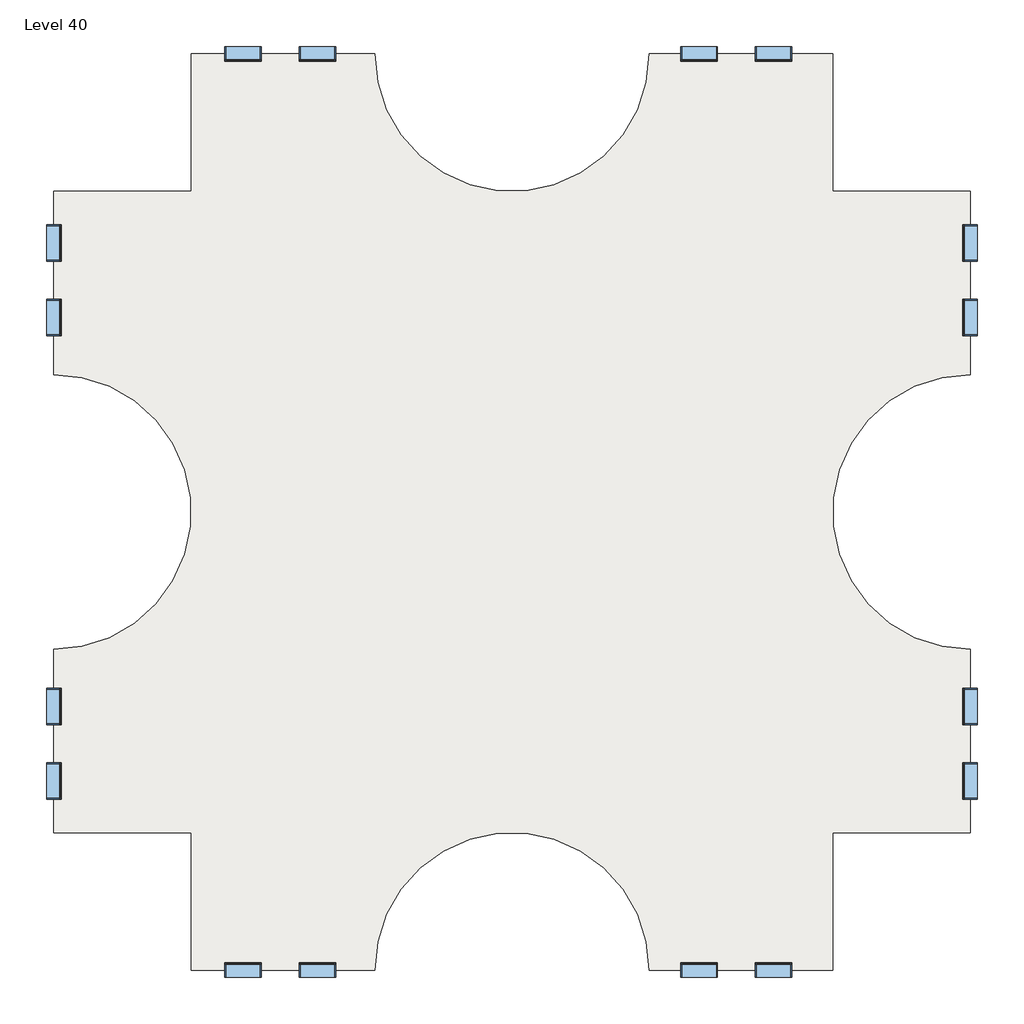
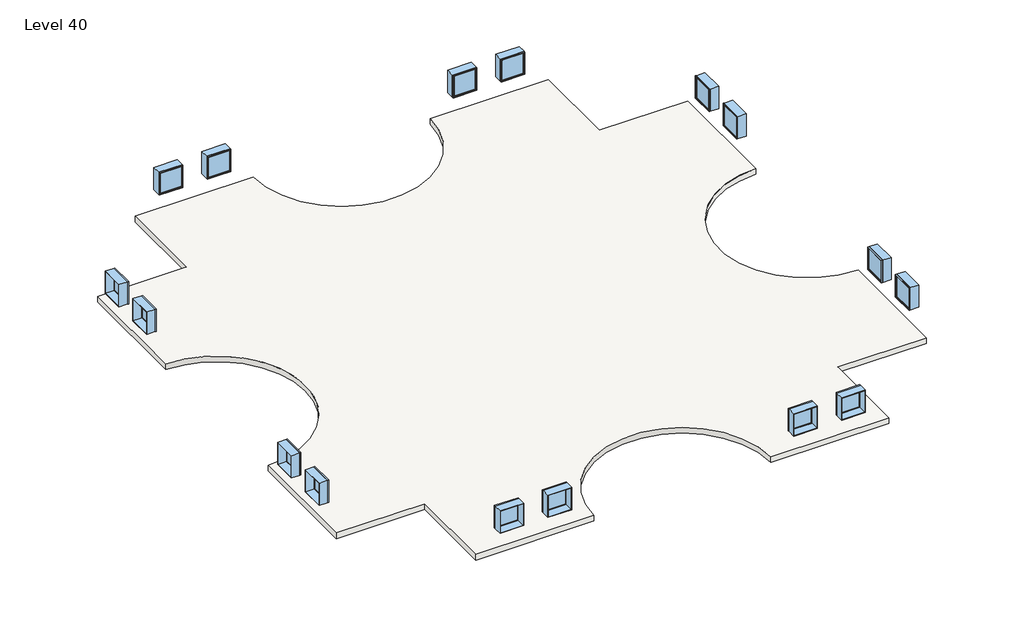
# One storey: 16 windows, 3 slabs.
"""IFC4 building model written with IfcOpenShell, lengths in millimetres."""

from ifc_helpers import new_model, si_unit, point, frame, frame_2d, origin, place, context, project, spatial, polyline, circle_curve, trimmed, segment, composite_curve, outline, extrude, transform, mapped, element, save
from components import window_d0035ecf, window_d434eb62

model = new_model("IFC4")

# Units and contexts
model_context = context("Model", 3, world=origin())
ifc_project = project(units=[si_unit("LENGTHUNIT", "METRE", prefix="MILLI")], contexts=[model_context])

# Site, building, storey
site = spatial("IfcSite", under=ifc_project)
building = spatial("IfcBuilding", under=site)
storey = spatial("IfcBuildingStorey", under=building, Name="Level 40", Elevation=118872.0)

# Slabs
placement = place(None, origin())
element("IfcSlab", 1, ObjectType="Generic - 12\"", at=placement, inside=storey, context=model_context, shape_type="SweptSolid", body=[
    extrude(outline(composite_curve([segment(polyline([(-7150.3629456, 4479.6634547), (-7150.3629456, 9051.6634547), (-1054.3629456, 9051.6634547)]), True, "CONTINUOUS"), segment(trimmed(circle_curve(frame_2d((3517.6370544, 9051.6634547)), 4572.0), [point((-1054.3629456, 9051.6634547))], [point((8089.6370544, 9051.6634547))], True, "CARTESIAN"), True, "CONTINUOUS"), segment(polyline([(8089.6370544, 9051.6634547), (14185.6370544, 9051.6634547), (14185.6370544, 4479.6634547), (18757.6370544, 4479.6634547), (18757.6370544, -1616.3365453)]), True, "CONTINUOUS"), segment(trimmed(circle_curve(frame_2d((18757.6370544, -6188.3365453)), 4572.0), [point((18757.6370544, -1616.3365453))], [point((18757.6370544, -10760.3365453))], True, "CARTESIAN"), True, "CONTINUOUS"), segment(polyline([(18757.6370544, -10760.3365453), (18757.6370544, -16856.3365453), (14185.6370544, -16856.3365453), (14185.6370544, -21428.3365453), (8089.6370544, -21428.3365453)]), True, "CONTINUOUS"), segment(trimmed(circle_curve(frame_2d((3517.6370544, -21428.3365453)), 4572.0), [point((8089.6370544, -21428.3365453))], [point((-1054.3629456, -21428.3365453))], True, "CARTESIAN"), True, "CONTINUOUS"), segment(polyline([(-1054.3629456, -21428.3365453), (-7150.3629456, -21428.3365453), (-7150.3629456, -16856.3365453), (-11722.3629456, -16856.3365453), (-11722.3629456, -10760.3365453)]), True, "CONTINUOUS"), segment(trimmed(circle_curve(frame_2d((-11722.3629456, -6188.3365453)), 4572.0), [point((-11722.3629456, -10760.3365453))], [point((-11722.3629456, -1616.3365453))], True, "CARTESIAN"), True, "CONTINUOUS"), segment(polyline([(-11722.3629456, -1616.3365453), (-11722.3629456, 4479.6634547), (-7150.3629456, 4479.6634547)]), True, "CONTINUOUS")], self_intersect=False)), frame((0.0, 0.0, 118567.2), z_axis=(0.0, 0.0, 1.0), x_axis=(1.0, 0.0, 0.0)), (0.0, 0.0, 1.0), 304.8),
])
element("IfcSlab", 2, ObjectType="Generic - 12\"", at=placement, inside=storey, context=model_context, shape_type="SweptSolid", body=[
    extrude(outline(composite_curve([segment(polyline([(-7150.3629456, 4479.6634547), (-7150.3629456, 9051.6634547), (-1054.3629456, 9051.6634547)]), True, "CONTINUOUS"), segment(trimmed(circle_curve(frame_2d((3517.6370544, 9051.6634547)), 4572.0), [point((-1054.3629456, 9051.6634547))], [point((8089.6370544, 9051.6634547))], True, "CARTESIAN"), True, "CONTINUOUS"), segment(polyline([(8089.6370544, 9051.6634547), (14185.6370544, 9051.6634547), (14185.6370544, 4479.6634547), (18757.6370544, 4479.6634547), (18757.6370544, -1616.3365453)]), True, "CONTINUOUS"), segment(trimmed(circle_curve(frame_2d((18757.6370544, -6188.3365453)), 4572.0), [point((18757.6370544, -1616.3365453))], [point((18757.6370544, -10760.3365453))], True, "CARTESIAN"), True, "CONTINUOUS"), segment(polyline([(18757.6370544, -10760.3365453), (18757.6370544, -16856.3365453), (14185.6370544, -16856.3365453), (14185.6370544, -21428.3365453), (8089.6370544, -21428.3365453)]), True, "CONTINUOUS"), segment(trimmed(circle_curve(frame_2d((3517.6370544, -21428.3365453)), 4572.0), [point((8089.6370544, -21428.3365453))], [point((-1054.3629456, -21428.3365453))], True, "CARTESIAN"), True, "CONTINUOUS"), segment(polyline([(-1054.3629456, -21428.3365453), (-7150.3629456, -21428.3365453), (-7150.3629456, -16856.3365453), (-11722.3629456, -16856.3365453), (-11722.3629456, -10760.3365453)]), True, "CONTINUOUS"), segment(trimmed(circle_curve(frame_2d((-11722.3629456, -6188.3365453)), 4572.0), [point((-11722.3629456, -10760.3365453))], [point((-11722.3629456, -1616.3365453))], True, "CARTESIAN"), True, "CONTINUOUS"), segment(polyline([(-11722.3629456, -1616.3365453), (-11722.3629456, 4479.6634547), (-7150.3629456, 4479.6634547)]), True, "CONTINUOUS")], self_intersect=False)), frame((0.0, 0.0, 118567.2), z_axis=(0.0, 0.0, 1.0), x_axis=(1.0, 0.0, 0.0)), (0.0, 0.0, 1.0), 304.8),
])
element("IfcSlab", 3, ObjectType="Generic - 12\"", at=placement, inside=storey, context=model_context, shape_type="SweptSolid", body=[
    extrude(outline(composite_curve([segment(polyline([(-7150.3629456, 4479.6634547), (-7150.3629456, 9051.6634547), (-1054.3629456, 9051.6634547)]), True, "CONTINUOUS"), segment(trimmed(circle_curve(frame_2d((3517.6370544, 9051.6634547)), 4572.0), [point((-1054.3629456, 9051.6634547))], [point((8089.6370544, 9051.6634547))], True, "CARTESIAN"), True, "CONTINUOUS"), segment(polyline([(8089.6370544, 9051.6634547), (14185.6370544, 9051.6634547), (14185.6370544, 4479.6634547), (18757.6370544, 4479.6634547), (18757.6370544, -1616.3365453)]), True, "CONTINUOUS"), segment(trimmed(circle_curve(frame_2d((18757.6370544, -6188.3365453)), 4572.0), [point((18757.6370544, -1616.3365453))], [point((18757.6370544, -10760.3365453))], True, "CARTESIAN"), True, "CONTINUOUS"), segment(polyline([(18757.6370544, -10760.3365453), (18757.6370544, -16856.3365453), (14185.6370544, -16856.3365453), (14185.6370544, -21428.3365453), (8089.6370544, -21428.3365453)]), True, "CONTINUOUS"), segment(trimmed(circle_curve(frame_2d((3517.6370544, -21428.3365453)), 4572.0), [point((8089.6370544, -21428.3365453))], [point((-1054.3629456, -21428.3365453))], True, "CARTESIAN"), True, "CONTINUOUS"), segment(polyline([(-1054.3629456, -21428.3365453), (-7150.3629456, -21428.3365453), (-7150.3629456, -16856.3365453), (-11722.3629456, -16856.3365453), (-11722.3629456, -10760.3365453)]), True, "CONTINUOUS"), segment(trimmed(circle_curve(frame_2d((-11722.3629456, -6188.3365453)), 4572.0), [point((-11722.3629456, -10760.3365453))], [point((-11722.3629456, -1616.3365453))], True, "CARTESIAN"), True, "CONTINUOUS"), segment(polyline([(-11722.3629456, -1616.3365453), (-11722.3629456, 4479.6634547), (-7150.3629456, 4479.6634547)]), True, "CONTINUOUS")], self_intersect=False)), frame((0.0, 0.0, 118567.2), z_axis=(0.0, 0.0, 1.0), x_axis=(1.0, 0.0, 0.0)), (0.0, 0.0, 1.0), 304.8),
])

# Windows
window_shape = window_d0035ecf(model_context)
element("IfcWindow", 4, ObjectType="Fixed : 48\" x 48\"", at=placement, inside=storey, context=model_context, shape_type="MappedRepresentation", body=[
    mapped(window_shape, transform((-11719.1879456, 247.3884547, 118872.0), x_axis=(0.0, -1.0, 0.0), y_axis=(1.0, 0.0, 0.0), z_axis=(0.0, 0.0, 1.0))),
])
element("IfcWindow", 5, ObjectType="Fixed : 48\" x 48\"", at=placement, inside=storey, context=model_context, shape_type="MappedRepresentation", body=[
    mapped(window_shape, transform((-5469.1993281, 9048.4884547, 118872.0), x_axis=(-1.0, 0.0, 0.0), y_axis=(0.0, -1.0, 0.0), z_axis=(0.0, 0.0, 1.0))),
])
element("IfcWindow", 6, ObjectType="Fixed : 48\" x 48\"", at=placement, inside=storey, context=model_context, shape_type="MappedRepresentation", body=[
    mapped(window_shape, transform((-11719.1879456, -15175.1729277, 118872.0), x_axis=(0.0, -1.0, 0.0), y_axis=(1.0, 0.0, 0.0), z_axis=(0.0, 0.0, 1.0))),
])
element("IfcWindow", 7, ObjectType="Fixed : 48\" x 48\"", at=placement, inside=storey, context=model_context, shape_type="MappedRepresentation", body=[
    mapped(window_shape, transform((-2918.0879456, -21425.1615453, 118872.0), x_axis=(1.0, 0.0, 0.0), y_axis=(0.0, 1.0, 0.0), z_axis=(0.0, 0.0, 1.0))),
])
element("IfcWindow", 8, ObjectType="Fixed : 48\" x 48\"", at=placement, inside=storey, context=model_context, shape_type="MappedRepresentation", body=[
    mapped(window_shape, transform((18754.4620544, 2798.4998372, 118872.0), x_axis=(0.0, 1.0, 0.0), y_axis=(-1.0, 0.0, 0.0), z_axis=(0.0, 0.0, 1.0))),
])
element("IfcWindow", 9, ObjectType="Fixed : 48\" x 48\"", at=placement, inside=storey, context=model_context, shape_type="MappedRepresentation", body=[
    mapped(window_shape, transform((9705.7120544, 9048.4884547, 118872.0), x_axis=(-1.0, 0.0, 0.0), y_axis=(0.0, -1.0, 0.0), z_axis=(0.0, 0.0, 1.0))),
])
element("IfcWindow", 10, ObjectType="Fixed : 48\" x 48\"", at=placement, inside=storey, context=model_context, shape_type="MappedRepresentation", body=[
    mapped(window_shape, transform((18754.4620544, -12624.0615453, 118872.0), x_axis=(0.0, 1.0, 0.0), y_axis=(-1.0, 0.0, 0.0), z_axis=(0.0, 0.0, 1.0))),
])
element("IfcWindow", 11, ObjectType="Fixed : 48\" x 48\"", at=placement, inside=storey, context=model_context, shape_type="MappedRepresentation", body=[
    mapped(window_shape, transform((12256.8234368, -21425.1615453, 118872.0), x_axis=(1.0, 0.0, 0.0), y_axis=(0.0, 1.0, 0.0), z_axis=(0.0, 0.0, 1.0))),
])
window_2_shape = window_d434eb62(model_context)
element("IfcWindow", 12, ObjectType="Fixed : 48\" x 48\"", at=placement, inside=storey, context=model_context, shape_type="MappedRepresentation", body=[
    mapped(window_2_shape, transform((-11719.1879456, 2798.4998372, 118872.0), x_axis=(0.0, 1.0, 0.0), y_axis=(-1.0, 0.0, 0.0), z_axis=(0.0, 0.0, 1.0))),
])
element("IfcWindow", 13, ObjectType="Fixed : 48\" x 48\"", at=placement, inside=storey, context=model_context, shape_type="MappedRepresentation", body=[
    mapped(window_2_shape, transform((-2918.0879456, 9048.4884547, 118872.0), x_axis=(1.0, 0.0, 0.0), y_axis=(0.0, 1.0, 0.0), z_axis=(0.0, 0.0, 1.0))),
])
element("IfcWindow", 14, ObjectType="Fixed : 48\" x 48\"", at=placement, inside=storey, context=model_context, shape_type="MappedRepresentation", body=[
    mapped(window_2_shape, transform((-11719.1879456, -12624.0615453, 118872.0), x_axis=(0.0, 1.0, 0.0), y_axis=(-1.0, 0.0, 0.0), z_axis=(0.0, 0.0, 1.0))),
])
element("IfcWindow", 15, ObjectType="Fixed : 48\" x 48\"", at=placement, inside=storey, context=model_context, shape_type="MappedRepresentation", body=[
    mapped(window_2_shape, transform((-5469.1993281, -21425.1615453, 118872.0), x_axis=(-1.0, 0.0, 0.0), y_axis=(0.0, -1.0, 0.0), z_axis=(0.0, 0.0, 1.0))),
])
element("IfcWindow", 16, ObjectType="Fixed : 48\" x 48\"", at=placement, inside=storey, context=model_context, shape_type="MappedRepresentation", body=[
    mapped(window_2_shape, transform((18754.4620544, 247.3884547, 118872.0), x_axis=(0.0, -1.0, 0.0), y_axis=(1.0, 0.0, 0.0), z_axis=(0.0, 0.0, 1.0))),
])
element("IfcWindow", 17, ObjectType="Fixed : 48\" x 48\"", at=placement, inside=storey, context=model_context, shape_type="MappedRepresentation", body=[
    mapped(window_2_shape, transform((12256.8234368, 9048.4884547, 118872.0), x_axis=(1.0, 0.0, 0.0), y_axis=(0.0, 1.0, 0.0), z_axis=(0.0, 0.0, 1.0))),
])
element("IfcWindow", 18, ObjectType="Fixed : 48\" x 48\"", at=placement, inside=storey, context=model_context, shape_type="MappedRepresentation", body=[
    mapped(window_2_shape, transform((18754.4620544, -15175.1729277, 118872.0), x_axis=(0.0, -1.0, 0.0), y_axis=(1.0, 0.0, 0.0), z_axis=(0.0, 0.0, 1.0))),
])
element("IfcWindow", 19, ObjectType="Fixed : 48\" x 48\"", at=placement, inside=storey, context=model_context, shape_type="MappedRepresentation", body=[
    mapped(window_2_shape, transform((9705.7120544, -21425.1615453, 118872.0), x_axis=(-1.0, 0.0, 0.0), y_axis=(0.0, -1.0, 0.0), z_axis=(0.0, 0.0, 1.0))),
])

save(model, "model.ifc")
